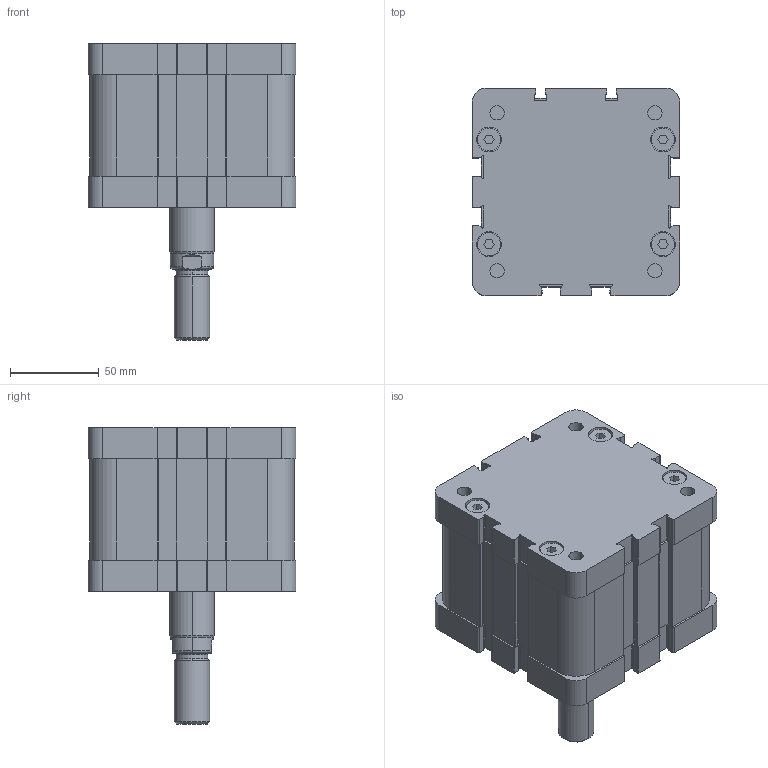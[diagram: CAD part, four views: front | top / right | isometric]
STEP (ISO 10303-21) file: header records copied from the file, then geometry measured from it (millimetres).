
FILE_DESCRIPTION((''),'2;1');
FILE_NAME('P31M31000025.stp','2010-02-25T21:15:42',('B. Petkovic 2010'),('AZ PNEUMATICA S.r.l.'),'Mechanical Desktop 2006','Mechanical Desktop 2006','Via Marco Biagi 6, I-20020 Misinto(MI) Italy, azpneu@tin.it');
FILE_SCHEMA(('CONFIG_CONTROL_DESIGN'));
Length unit declared in the file: millimetre
Products named in the file (2): P31M31000025; COMPACT CILINDRI
Assembly tree (1 placements, depth 2):
  P31M31000025
    COMPACT CILINDRI
Bounding box: 117 x 117 x 167 mm (x, y, z)
Volume: 1196875.6 mm3; surface area: 96277.6 mm2
Topology: 1 solids, 1 shells, 568 faces, 1479 edges, 951 vertices
Faces by surface type: plane 362, cylinder 194, cone 6, bspline 4, torus 2
Entity records: 17677 total; most frequent: CARTESIAN_POINT 3260, DIRECTION 3054, ORIENTED_EDGE 2958, EDGE_CURVE 1479, VECTOR 1032, LINE 1032, AXIS2_PLACEMENT_3D 1011, VERTEX_POINT 951
